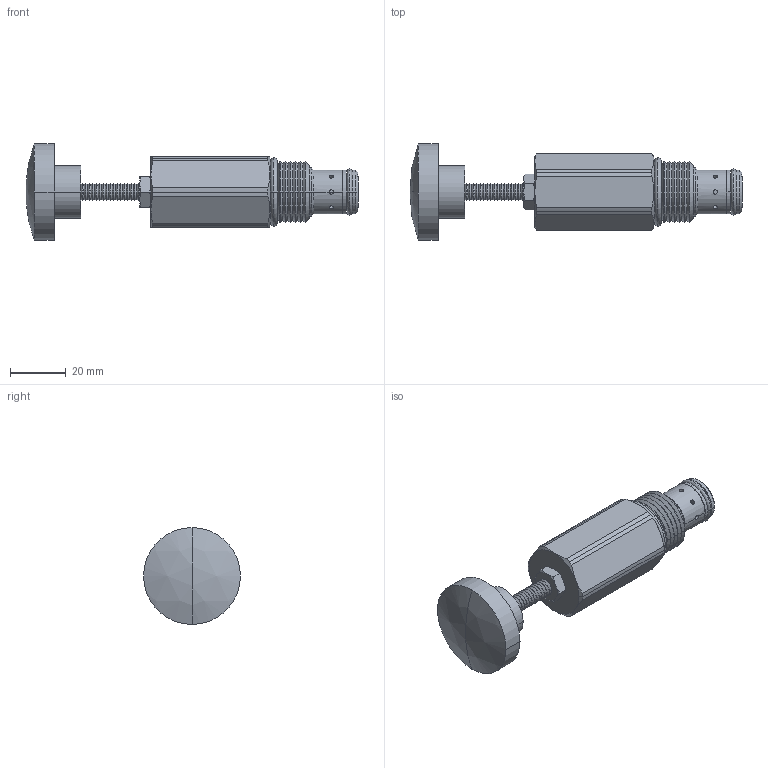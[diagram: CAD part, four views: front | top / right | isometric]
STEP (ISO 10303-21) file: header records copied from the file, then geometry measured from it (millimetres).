
FILE_DESCRIPTION((''),'2;1');
FILE_NAME('U:\Solid model CD\Solid model full\Mechanical\STEP\DEFCA0K-3D Full.stp','2008-07-28T16:02:39',('Dan'),(''),'Autodesk Inventor 9','Autodesk Inventor 9','');
FILE_SCHEMA(('AUTOMOTIVE_DESIGN { 1 0 10303 214 1 1 1 1 }'));
Length unit declared in the file: inch
Products named in the file (5): DEFCA0K-3D Full; DEFCA0K-3D Full1; DEFCA0K-3D Full2; DEFCA0K-3D Full3; DEFCA0K-3D Full4
Assembly tree (4 placements, depth 2):
  DEFCA0K-3D Full
    DEFCA0K-3D Full1
    DEFCA0K-3D Full2
    DEFCA0K-3D Full3
    DEFCA0K-3D Full4
Bounding box: 119.64 x 34.92 x 34.92 mm (x, y, z)
Volume: 44139.5 mm3; surface area: 12846.4 mm2
Topology: 4 solids, 4 shells, 259 faces, 596 edges, 357 vertices
Faces by surface type: cone 128, cylinder 76, plane 33, bspline 16, torus 4, sphere 2
Entity records: 8486 total; most frequent: CARTESIAN_POINT 2577, DIRECTION 1268, ORIENTED_EDGE 1192, EDGE_CURVE 596, AXIS2_PLACEMENT_3D 534, VERTEX_POINT 357, EDGE_LOOP 293, CIRCLE 282
